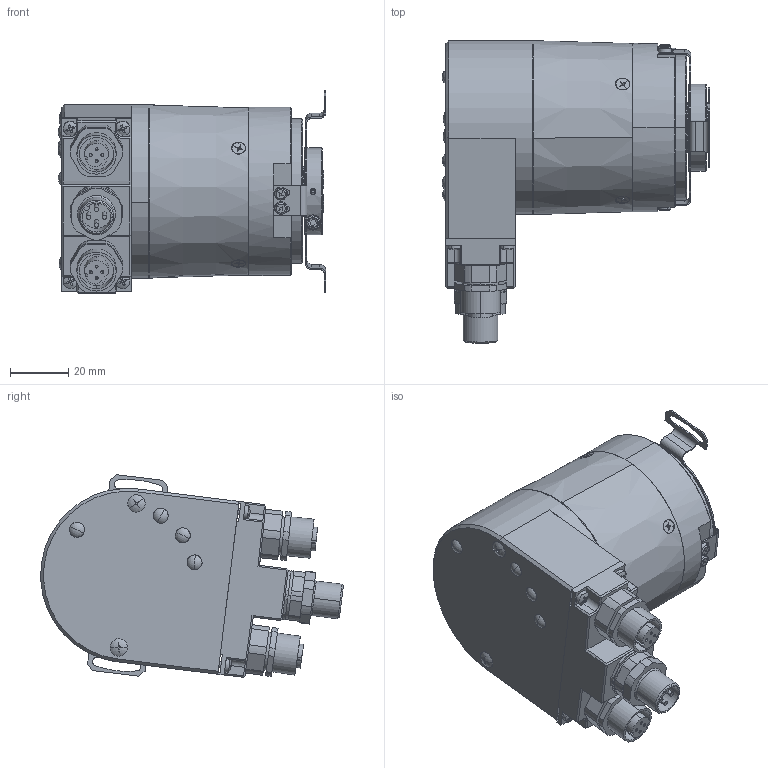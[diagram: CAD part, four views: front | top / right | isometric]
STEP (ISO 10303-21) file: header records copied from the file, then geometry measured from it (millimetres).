
FILE_DESCRIPTION (( 'STEP AP214' ), '1' );
FILE_NAME ('5888.54B2.XXXX.STEP', '2009-01-09T08:02:02', ( 'admin' ), ( 'Fritz Kübler GmbH' ), 'SwSTEP 2.0', 'SolidWorks 2008', '' );
FILE_SCHEMA (( 'AUTOMOTIVE_DESIGN' ));
Length unit declared in the file: millimetre
Products named in the file (1): 5888.54B2.XXXX
Bounding box: 92.17 x 104.28 x 69.84 mm (x, y, z)
Volume: 120541.9 mm3; surface area: 82977.6 mm2
Topology: 32 solids, 33 shells, 2623 faces, 6927 edges, 4447 vertices
Faces by surface type: cylinder 1109, plane 1039, cone 341, torus 97, sphere 20, bspline 17
Entity records: 114528 total; most frequent: CARTESIAN_POINT 19627, DIRECTION 14133, ORIENTED_EDGE 13766, EDGE_CURVE 6883, AXIS2_PLACEMENT_3D 5463, VERTEX_POINT 4447, VECTOR 3207, LINE 3207
